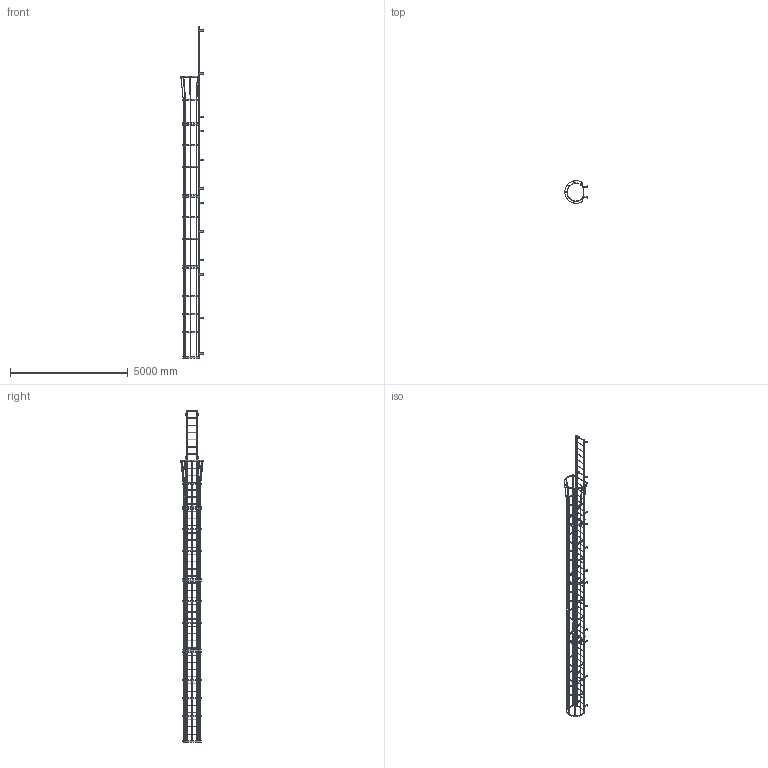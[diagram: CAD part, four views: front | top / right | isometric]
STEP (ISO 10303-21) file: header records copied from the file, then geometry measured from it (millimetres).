
FILE_DESCRIPTION(/* description */ (''),/* implementation_level */ '2;1');
FILE_NAME(/* name */ 'P:\MIKEL & KAREN\3570378 F47SC SIMPLIFIED PART.stp',/* time_stamp */ '2018-07-02T16:14:29-04:00',/* author */ ('stephanie'),/* organization */ (''),/* preprocessor_version */ 'ST-DEVELOPER v16.1',/* originating_system */ 'Autodesk Inventor 2016',/* authorisation */ '');
FILE_SCHEMA (('AUTOMOTIVE_DESIGN { 1 0 10303 214 3 1 1 }'));
Length unit declared in the file: centimetre
Products named in the file (1): 3570378 F47SC SIMPLIFIED PART
Bounding box: 974.15 x 977.88 x 14097 mm (x, y, z)
Volume: 50185932.8 mm3; surface area: 17972649.5 mm2
Topology: 68 solids, 68 shells, 1436 faces, 4348 edges, 2800 vertices
Faces by surface type: plane 948, cylinder 488
Full cylindrical faces by diameter (mm): 14.287 x30, 19.05 x47, 22.225 x94
Entity records: 49186 total; most frequent: ORIENTED_EDGE 8414, CARTESIAN_POINT 8166, DIRECTION 8111, EDGE_CURVE 4053, LINE 2869, VECTOR 2869, VERTEX_POINT 2676, AXIS2_PLACEMENT_3D 2621
